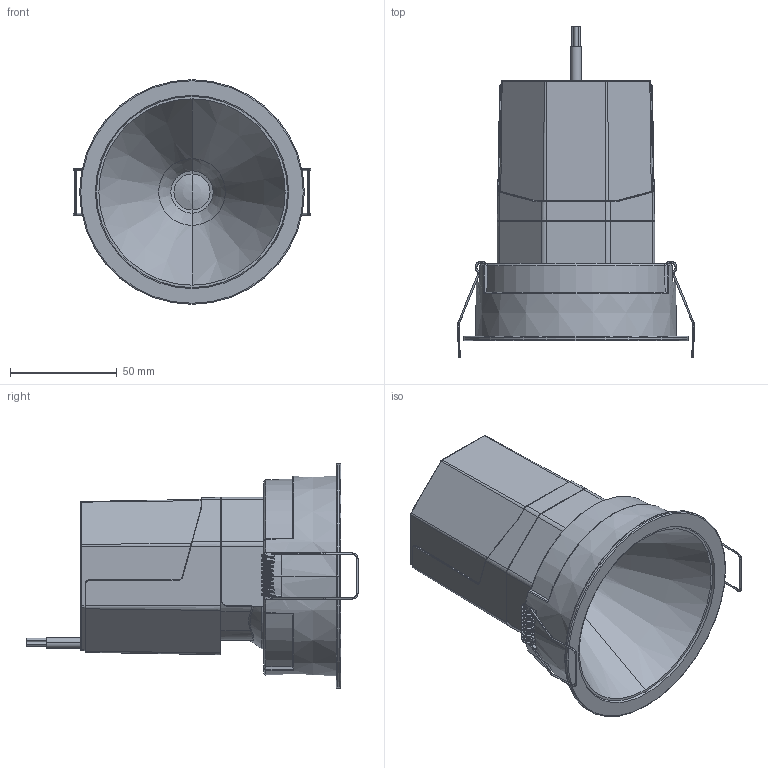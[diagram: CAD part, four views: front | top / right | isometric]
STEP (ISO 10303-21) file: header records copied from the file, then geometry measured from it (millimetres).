
FILE_DESCRIPTION((''),'2;1');
FILE_NAME('ASM0001_ASM','2026-06-26T14:24:40',('Administrator'),(''),'CREO PARAMETRIC BY PTC INC, 2021164','CREO PARAMETRIC BY PTC INC, 2021164','');
FILE_SCHEMA(('CONFIG_CONTROL_DESIGN','SHAPE_APPEARANCE_LAYERS_GROUPS'));
Length unit declared in the file: millimetre
Products named in the file (9): PRT0001; PRT0002; PRT0003; PRT0004; PRT0005; PRT0006; A1; PRT0008; ASM0001_ASM
Assembly tree (8 placements, depth 2):
  ASM0001_ASM
    PRT0001
    PRT0002
    PRT0003
    PRT0004
    PRT0005
    PRT0006
    A1
    PRT0008
Bounding box: 110.98 x 155.18 x 105 mm (x, y, z)
Volume: 286150.4 mm3; surface area: 139091.1 mm2
Topology: 8 solids, 8 shells, 687 faces, 1672 edges, 1016 vertices
Faces by surface type: cylinder 253, plane 193, torus 114, bspline 74, cone 49, sphere 4
Entity records: 36609 total; most frequent: CARTESIAN_POINT 11754, DIRECTION 3375, ORIENTED_EDGE 3340, PRESENTATION_STYLE_ASSIGNMENT 2119, STYLED_ITEM 2086, EDGE_CURVE 1670, CURVE_STYLE 1506, AXIS2_PLACEMENT_3D 1337
